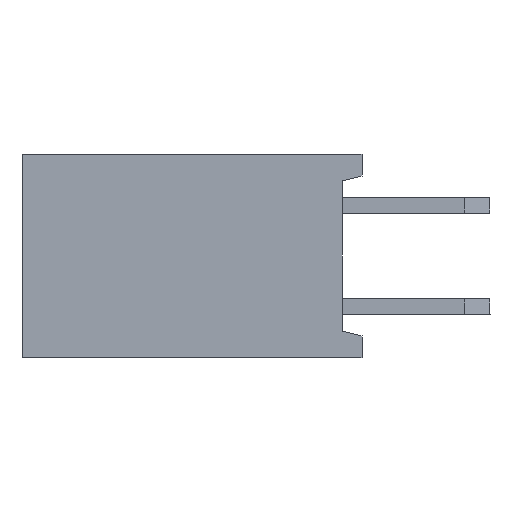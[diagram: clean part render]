
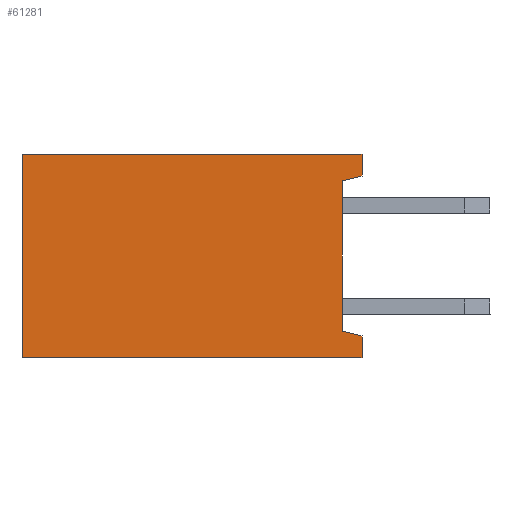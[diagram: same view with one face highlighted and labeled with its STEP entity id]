
A CAD part, left-side view. The second image highlights one B-rep face of the part: STEP entity #61281.
In plain terms, the highlighted planar face has unit normal (-1, 0, 0).
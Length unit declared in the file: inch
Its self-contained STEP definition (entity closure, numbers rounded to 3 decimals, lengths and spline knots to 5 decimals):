
#815 = VECTOR ( 'NONE', #71137, 39.37008 ) ;
#1492 = EDGE_CURVE ( 'NONE', #111456, #58951, #52928, .T. ) ;
#2007 = ORIENTED_EDGE ( 'NONE', *, *, #51174, .T. ) ;
#2353 = VECTOR ( 'NONE', #81398, 39.37008 ) ;
#3561 = VERTEX_POINT ( 'NONE', #105675 ) ;
#4329 = CARTESIAN_POINT ( 'NONE',  ( 0., 0., -0.02126 ) ) ;
#6077 = AXIS2_PLACEMENT_3D ( 'NONE', #106858, #53296, #115681 ) ;
#6583 = CARTESIAN_POINT ( 'NONE',  ( 0., 0.01969, -0.17402 ) ) ;
#7054 = VECTOR ( 'NONE', #40788, 39.37008 ) ;
#8202 = PLANE ( 'NONE',  #6077 ) ;
#8367 = CARTESIAN_POINT ( 'NONE',  ( 0., 0., -0.2 ) ) ;
#13403 = EDGE_CURVE ( 'NONE', #111456, #86152, #18482, .T. ) ;
#14523 = VECTOR ( 'NONE', #38955, 39.37008 ) ;
#16182 = CARTESIAN_POINT ( 'NONE',  ( 0., 0., -0.2 ) ) ;
#18482 = LINE ( 'NONE', #104525, #110805 ) ;
#21881 = LINE ( 'NONE', #8367, #815 ) ;
#27094 = DIRECTION ( 'NONE',  ( 0., 0., -1. ) ) ;
#28006 = CARTESIAN_POINT ( 'NONE',  ( 0., 0.01969, -0.02598 ) ) ;
#29464 = EDGE_LOOP ( 'NONE', ( #2007, #53149, #64818, #30811, #40758, #52118, #43821, #74902 ) ) ;
#30811 = ORIENTED_EDGE ( 'NONE', *, *, #98521, .F. ) ;
#30937 = CARTESIAN_POINT ( 'NONE',  ( 0., 0.01969, 0. ) ) ;
#31380 = VECTOR ( 'NONE', #27094, 39.37008 ) ;
#32814 = EDGE_CURVE ( 'NONE', #63991, #86152, #55242, .T. ) ;
#34346 = EDGE_CURVE ( 'NONE', #38691, #70723, #53454, .T. ) ;
#38691 = VERTEX_POINT ( 'NONE', #90210 ) ;
#38955 = DIRECTION ( 'NONE',  ( 0., -1., 0. ) ) ;
#38959 = EDGE_CURVE ( 'NONE', #38691, #3561, #88849, .T. ) ;
#39722 = CARTESIAN_POINT ( 'NONE',  ( 0., 0., -0.17874 ) ) ;
#40758 = ORIENTED_EDGE ( 'NONE', *, *, #1492, .F. ) ;
#40788 = DIRECTION ( 'NONE',  ( 0., 0., 1. ) ) ;
#43821 = ORIENTED_EDGE ( 'NONE', *, *, #32814, .F. ) ;
#44613 = CARTESIAN_POINT ( 'NONE',  ( 0., 0.01969, -0.02598 ) ) ;
#51174 = EDGE_CURVE ( 'NONE', #86603, #3561, #102339, .T. ) ;
#52118 = ORIENTED_EDGE ( 'NONE', *, *, #13403, .T. ) ;
#52928 = LINE ( 'NONE', #81165, #2353 ) ;
#53149 = ORIENTED_EDGE ( 'NONE', *, *, #38959, .F. ) ;
#53296 = DIRECTION ( 'NONE',  ( 1., 0., 0. ) ) ;
#53454 = LINE ( 'NONE', #84256, #98288 ) ;
#53655 = DIRECTION ( 'NONE',  ( 0., -0.972, 0.233 ) ) ;
#55242 = LINE ( 'NONE', #28006, #31380 ) ;
#55911 = VECTOR ( 'NONE', #53655, 39.37008 ) ;
#58951 = VERTEX_POINT ( 'NONE', #16182 ) ;
#59348 = FACE_OUTER_BOUND ( 'NONE', #29464, .T. ) ;
#60344 = CARTESIAN_POINT ( 'NONE',  ( 0., 0.01969, -0.02598 ) ) ;
#61281 = ADVANCED_FACE ( 'NONE', ( #59348 ), #8202, .F. ) ;
#63991 = VERTEX_POINT ( 'NONE', #60344 ) ;
#64818 = ORIENTED_EDGE ( 'NONE', *, *, #34346, .T. ) ;
#66631 = DIRECTION ( 'NONE',  ( 0., 0., -1. ) ) ;
#70723 = VERTEX_POINT ( 'NONE', #109774 ) ;
#71137 = DIRECTION ( 'NONE',  ( 0., 1., 0. ) ) ;
#74902 = ORIENTED_EDGE ( 'NONE', *, *, #102902, .T. ) ;
#81165 = CARTESIAN_POINT ( 'NONE',  ( 0., 0., -0.04213 ) ) ;
#81398 = DIRECTION ( 'NONE',  ( 0., 0., -1. ) ) ;
#84256 = CARTESIAN_POINT ( 'NONE',  ( 0., 0.33465, -0.04213 ) ) ;
#86152 = VERTEX_POINT ( 'NONE', #6583 ) ;
#86603 = VERTEX_POINT ( 'NONE', #111674 ) ;
#88849 = LINE ( 'NONE', #30937, #14523 ) ;
#90210 = CARTESIAN_POINT ( 'NONE',  ( 0., 0.33465, 0. ) ) ;
#98288 = VECTOR ( 'NONE', #66631, 39.37008 ) ;
#98521 = EDGE_CURVE ( 'NONE', #58951, #70723, #21881, .T. ) ;
#102339 = LINE ( 'NONE', #4329, #7054 ) ;
#102902 = EDGE_CURVE ( 'NONE', #63991, #86603, #103478, .T. ) ;
#103478 = LINE ( 'NONE', #44613, #55911 ) ;
#103883 = DIRECTION ( 'NONE',  ( 0., 0.972, 0.233 ) ) ;
#104525 = CARTESIAN_POINT ( 'NONE',  ( 0., 0., -0.17874 ) ) ;
#105675 = CARTESIAN_POINT ( 'NONE',  ( 0., 0., 0. ) ) ;
#106858 = CARTESIAN_POINT ( 'NONE',  ( 0., 0.01969, -0.04213 ) ) ;
#109774 = CARTESIAN_POINT ( 'NONE',  ( 0., 0.33465, -0.2 ) ) ;
#110805 = VECTOR ( 'NONE', #103883, 39.37008 ) ;
#111456 = VERTEX_POINT ( 'NONE', #39722 ) ;
#111674 = CARTESIAN_POINT ( 'NONE',  ( 0., 0., -0.02126 ) ) ;
#115681 = DIRECTION ( 'NONE',  ( 0., 0., -1. ) ) ;
